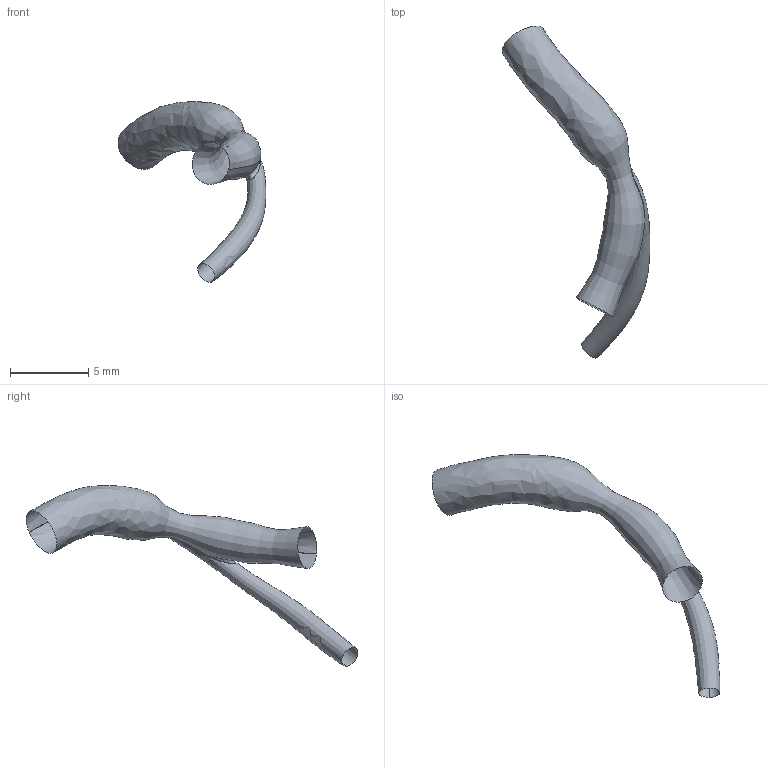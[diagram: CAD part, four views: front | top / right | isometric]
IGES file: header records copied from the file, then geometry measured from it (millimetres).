
Global section: file name: C:\Documents and Settings\Administrator\Desktop\FDA Bifurcation win\RawData_for_IGES\HRCA_Data\20001205.093751\IGES\20001205.093751.RM2.BIFUR.ED.igs; native system: Rhinoceros ( May 19 2006 ); preprocessor: Trout Lake IGES 012 May 19 2006; date: 100728.204024; units: centimetre
Bounding box: 9.48 x 21.27 x 11.57 mm (x, y, z)
Surface area: 221.4 mm2 (no closed solid volume)
Topology: 0 solids, 0 shells, 5 faces, 65 edges, 62 vertices
Faces by surface type: bspline 5
